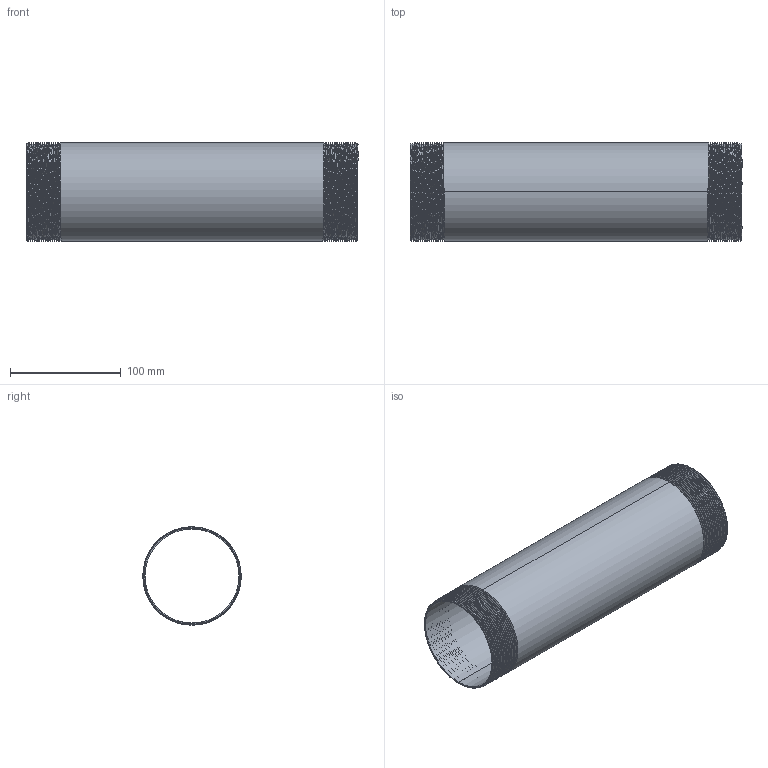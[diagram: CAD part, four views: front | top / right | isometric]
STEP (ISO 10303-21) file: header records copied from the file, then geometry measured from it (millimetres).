
FILE_DESCRIPTION (( 'STEP AP203' ), '1' );
FILE_NAME ('3D_R210_3x300_17148695.STEP', '2024-08-16T10:26:35', ( '' ), ( '' ), 'SwSTEP 2.0', 'SolidWorks 2024', '' );
FILE_SCHEMA (( 'CONFIG_CONTROL_DESIGN' ));
Length unit declared in the file: millimetre
Products named in the file (1): 3D_R210_3x300_17148695
Bounding box: 300 x 88.86 x 88.9 mm (x, y, z)
Volume: 153072.3 mm3; surface area: 173996.6 mm2
Topology: 1 solids, 1 shells, 80 faces, 228 edges, 150 vertices
Faces by surface type: cone 66, bspline 6, cylinder 4, plane 4
Entity records: 16579 total; most frequent: CARTESIAN_POINT 14717, ORIENTED_EDGE 456, DIRECTION 248, EDGE_CURVE 228, VERTEX_POINT 150, B_SPLINE_CURVE_WITH_KNOTS 134, AXIS2_PLACEMENT_3D 87, EDGE_LOOP 82
